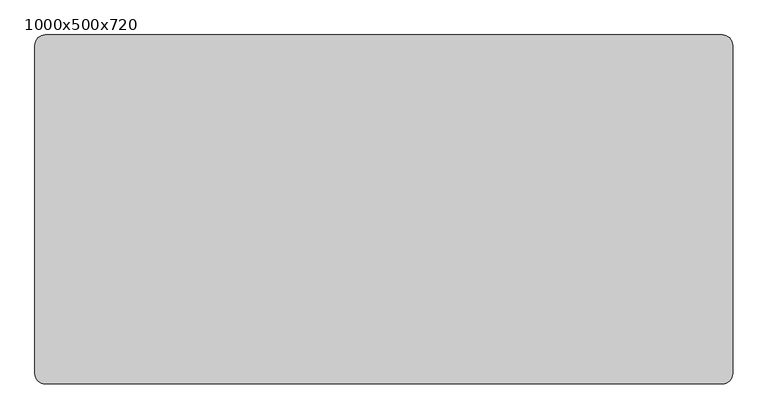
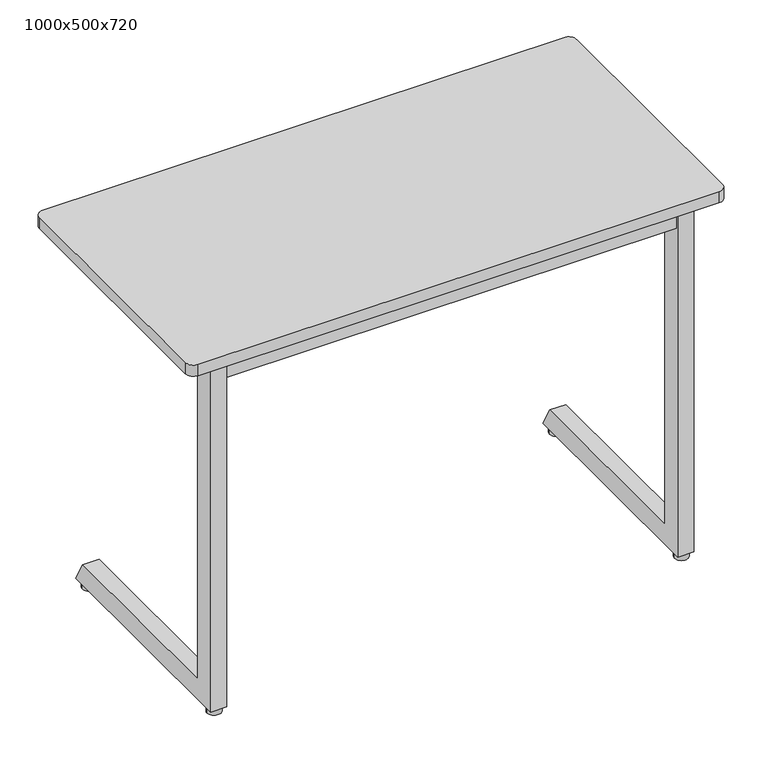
"""IFC4 building model written with IfcOpenShell, lengths in millimetres: furniture geometry, Trivia Light : 1000x500x720."""

from ifc_helpers import new_model, si_unit, point, frame, frame_2d, origin, origin_with_axes, place, context, project, spatial, polyline, circle_curve, trimmed, segment, composite_curve, outline, extrude, source, transform, mapped, element, save


def furniture_1000x500x720_2b57773b(model_context):
    return source(origin(), model_context, "Body", "SweptSolid", [
        extrude(outline(polyline([(434.5100173, 698.0), (419.9996059, 666.4981092), (54.0, 666.4977978), (54.0, 698.0), (434.5100173, 698.0)])), frame((-364.7535601, 0.0, 0.0), z_axis=(1.0, 0.0, 0.0), x_axis=(0.0, 1.0, 0.0)), (0.0, 0.0, 1.0), 30.0),
        extrude(outline(polyline([(693.7997437, -367.7502136), (670.730957, -367.7502136), (670.730957, -399.8065042), (675.0394353, -411.6439509), (672.2203574, -412.6700113), (667.730957, -400.3354852), (667.730957, -364.7502136), (693.7997437, -364.7502136), (693.7997437, -367.7502136)])), frame((0.0, 215.0, 0.0), z_axis=(0.0, 1.0, 0.0), x_axis=(0.0, 0.0, 1.0)), (0.0, 0.0, 1.0), 30.0),
        extrude(outline(polyline([(693.7997437, 367.7535601), (693.7997437, 364.7535601), (667.730957, 364.7535601), (667.730957, 400.3388316), (672.2203574, 412.6733577), (675.0394353, 411.6472973), (670.730957, 399.8098507), (670.730957, 367.7535601), (693.7997437, 367.7535601)])), frame((0.0, 215.0, 0.0), z_axis=(0.0, 1.0, 0.0), x_axis=(0.0, 0.0, 1.0)), (0.0, 0.0, 1.0), 30.0),
        extrude(outline(composite_curve([segment(trimmed(circle_curve(frame_2d((-435.0, 35.0)), 13.0), [point((-448.0, 35.0))], [point((-422.0, 35.0))], False, "CARTESIAN"), True, "CONTINUOUS"), segment(trimmed(circle_curve(frame_2d((-435.0, 35.0)), 13.0), [point((-422.0, 35.0))], [point((-448.0, 35.0))], False, "CARTESIAN"), True, "CONTINUOUS")], self_intersect=False)), origin_with_axes(), (0.0, 0.0, 1.0), 13.0905762),
        extrude(outline(composite_curve([segment(trimmed(circle_curve(frame_2d((435.0, 35.0)), 13.0), [point((422.0, 35.0))], [point((448.0, 35.0))], False, "CARTESIAN"), True, "CONTINUOUS"), segment(trimmed(circle_curve(frame_2d((435.0, 35.0)), 13.0), [point((448.0, 35.0))], [point((422.0, 35.0))], False, "CARTESIAN"), True, "CONTINUOUS")], self_intersect=False)), origin_with_axes(), (0.0, 0.0, 1.0), 13.0905762),
        extrude(outline(composite_curve([segment(trimmed(circle_curve(frame_2d((435.0, 437.5)), 13.0), [point((422.0, 437.5))], [point((448.0, 437.5))], False, "CARTESIAN"), True, "CONTINUOUS"), segment(trimmed(circle_curve(frame_2d((435.0, 437.5)), 13.0), [point((448.0, 437.5))], [point((422.0, 437.5))], False, "CARTESIAN"), True, "CONTINUOUS")], self_intersect=False)), origin_with_axes(), (0.0, 0.0, 1.0), 13.0905762),
        extrude(outline(composite_curve([segment(trimmed(circle_curve(frame_2d((-435.0, 437.5)), 13.0), [point((-448.0, 437.5))], [point((-422.0, 437.5))], False, "CARTESIAN"), True, "CONTINUOUS"), segment(trimmed(circle_curve(frame_2d((-435.0, 437.5)), 13.0), [point((-422.0, 437.5))], [point((-448.0, 437.5))], False, "CARTESIAN"), True, "CONTINUOUS")], self_intersect=False)), origin_with_axes(), (0.0, 0.0, 1.0), 13.0905762),
        extrude(outline(polyline([(434.5100173, 698.0), (419.9996059, 666.4981092), (54.0, 666.4977978), (54.0, 698.0), (434.5100173, 698.0)])), frame((334.7535601, 0.0, 0.0), z_axis=(1.0, 0.0, 0.0), x_axis=(0.0, 1.0, 0.0)), (0.0, 0.0, 1.0), 30.0),
        extrude(outline(composite_curve([segment(trimmed(circle_curve(frame_2d((485.0, 485.0)), 15.0), [point((485.0, 500.0))], [point((500.0, 485.0))], False, "CARTESIAN"), True, "CONTINUOUS"), segment(polyline([(500.0, 485.0), (500.0, 15.0)]), True, "CONTINUOUS"), segment(trimmed(circle_curve(frame_2d((485.0, 15.0)), 15.0), [point((500.0, 15.0))], [point((485.0, 0.0))], False, "CARTESIAN"), True, "CONTINUOUS"), segment(polyline([(485.0, 0.0), (-485.0, 0.0)]), True, "CONTINUOUS"), segment(trimmed(circle_curve(frame_2d((-485.0, 15.0)), 15.0), [point((-485.0, 0.0))], [point((-500.0, 15.0))], False, "CARTESIAN"), True, "CONTINUOUS"), segment(polyline([(-500.0, 15.0), (-500.0, 485.0)]), True, "CONTINUOUS"), segment(trimmed(circle_curve(frame_2d((-485.0, 485.0)), 15.0), [point((-500.0, 485.0))], [point((-485.0, 500.0))], False, "CARTESIAN"), True, "CONTINUOUS"), segment(polyline([(-485.0, 500.0), (485.0, 500.0)]), True, "CONTINUOUS")], self_intersect=False)), frame((0.0, 0.0, 698.0), z_axis=(0.0, 0.0, 1.0), x_axis=(1.0, 0.0, 0.0)), (0.0, 0.0, 1.0), 22.0),
        extrude(outline(polyline([(419.7534307, 54.0), (419.7534307, 24.0), (-419.7534307, 24.0), (-419.7534307, 54.0), (419.7534307, 54.0)])), frame((0.0, 0.0, 656.0), z_axis=(0.0, 0.0, 1.0), x_axis=(1.0, 0.0, 0.0)), (0.0, 0.0, 1.0), 42.0),
        extrude(outline(polyline([(62.0, 51.5905762), (432.1448423, 51.5905762), (454.8944033, 11.5905762), (20.0, 11.5905762), (20.0, 698.0), (62.0, 698.0), (62.0, 51.5905762)])), frame((-449.7535601, 0.0, 0.0), z_axis=(1.0, 0.0, 0.0), x_axis=(0.0, 1.0, 0.0)), (0.0, 0.0, 1.0), 30.0001294),
        extrude(outline(polyline([(62.0, 51.5905762), (432.1448423, 51.5905762), (454.8944033, 11.5905762), (20.0, 11.5905762), (20.0, 698.0), (62.0, 698.0), (62.0, 51.5905762)])), frame((419.7534307, 0.0, 0.0), z_axis=(1.0, 0.0, 0.0), x_axis=(0.0, 1.0, 0.0)), (0.0, 0.0, 1.0), 30.0001294),
    ])


if __name__ == "__main__":
    model = new_model("IFC4")
    model_context = context("Model", 3, world=origin())
    ifc_project = project(units=[si_unit("LENGTHUNIT", "METRE", prefix="MILLI")], contexts=[model_context])
    site = spatial("IfcSite", under=ifc_project)
    building = spatial("IfcBuilding", under=site)
    placement = place(None, origin())
    furniture_1000x500x720_shape = furniture_1000x500x720_2b57773b(model_context)
    element("IfcFurniture", 1, ObjectType="Trivia Light : 1000x500x720", at=placement, inside=building, context=model_context, shape_type="MappedRepresentation", body=[
        mapped(furniture_1000x500x720_shape, transform((0.0, 0.0, 0.0), x_axis=(1.0, 0.0, 0.0), y_axis=(0.0, 1.0, 0.0), z_axis=(0.0, 0.0, 1.0))),
    ])
    save(model, "model.ifc")
